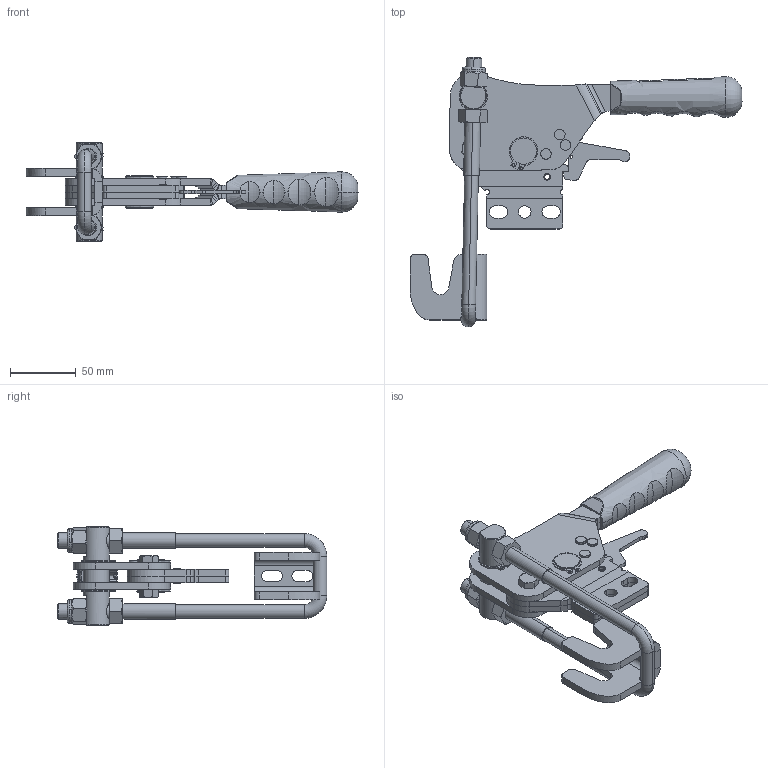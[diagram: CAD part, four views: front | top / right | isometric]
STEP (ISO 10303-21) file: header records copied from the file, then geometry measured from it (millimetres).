
FILE_DESCRIPTION (( 'STEP AP203' ), '1' );
FILE_NAME ('13212_Y_K.STEP', '2022-11-30T12:09:55', ( '' ), ( '' ), 'SwSTEP 2.0', 'SolidWorks 2023', '' );
FILE_SCHEMA (( 'CONFIG_CONTROL_DESIGN' ));
Length unit declared in the file: millimetre
Products named in the file (19): mandal 1; 5-12-1330659; Pim_5x22_Varsayılan; 13210 H kolu; circlips_o20-uni_7435; M8 Somun_Varsayılan; hexagon_bolt_jis_b_1180_c_m8_x25_Varsayılan; 07210-12; M12_U_Kanca_Varsayılan; Karşılık kancası m 12; Aynalama13210 H kolu; autolock_nut_h_fr_nf_e_25-409_m12_6_1; Aynalama13210 Gövde; 1391_Kanca mili_Varsayılan; mandal 2; cap 20 malzeme ; 13212_Y_K; 13210 Gövde; C100_T_10x20(YENİ_TUTAMAK_10x20)_Varsayılan
Assembly tree (24 placements, depth 2):
  mandal 2
  13212_Y_K
    13210 Gövde
    13210 H kolu
    Aynalama13210 Gövde
    1391_Kanca mili_Varsayılan
    mandal 1
    Pim_5x22_Varsayılan  x3
    M8 Somun_Varsayılan
    M12_U_Kanca_Varsayılan
    cap 20 malzeme 
    Karşılık kancası m 12
    Aynalama13210 H kolu
    07210-12  x2
    5-12-1330659
    autolock_nut_h_fr_nf_e_25-409_m12_6_1  x2
    circlips_o20-uni_7435  x4
    hexagon_bolt_jis_b_1180_c_m8_x25_Varsayılan
    C100_T_10x20(YENİ_TUTAMAK_10x20)_Varsayılan
Bounding box: 252.65 x 205.31 x 75 mm (x, y, z)
Volume: 275170.8 mm3; surface area: 125669.8 mm2
Topology: 24 solids, 24 shells, 874 faces, 2196 edges, 1397 vertices
Faces by surface type: plane 444, cylinder 288, cone 76, torus 40, bspline 26
Entity records: 24885 total; most frequent: CARTESIAN_POINT 6807, ORIENTED_EDGE 3322, DIRECTION 3297, EDGE_CURVE 1661, AXIS2_PLACEMENT_3D 1192, VERTEX_POINT 1059, LINE 913, VECTOR 913
